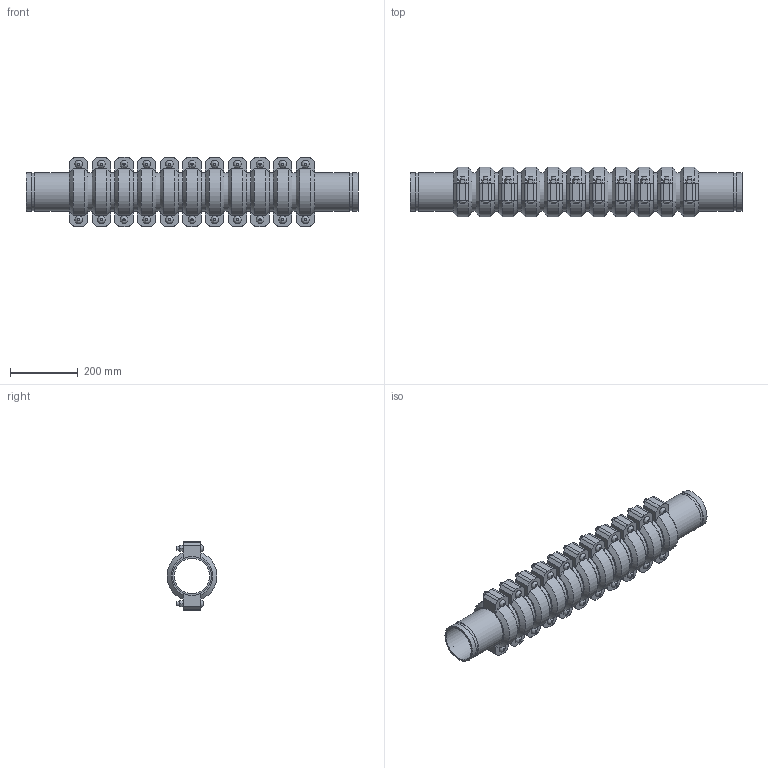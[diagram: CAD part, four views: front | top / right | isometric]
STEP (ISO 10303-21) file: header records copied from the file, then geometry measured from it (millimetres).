
FILE_DESCRIPTION(/* description */ ('VIC SS EXPANSION JOINT 11 COUPLINGS EXPANDED STYLE 155P (OGS) (POTABLE WATER) ','CAx-IF Rec.Pracs.---Representation and Presentation of Product Manufacturing Information (PMI)---4.0---2014-10-13'),/* implementation_level */ '2;1');
FILE_NAME(/* name */ 'C:\Users\kkamble\AppData\Roaming\Autodesk\ApplicationPlugins\Victaulic.Temp\A494\Victaulic_SS_Expansion Joint_Expanded_11 Couplings_Style 155P (OGS)-Potable Water_11 Coup_Expd_4 (100).stp',/* time_stamp */ '2021-07-16T16:46:20+05:00',/* author */ ('kkamble'),/* organization */ ('Victaulic'),/* preprocessor_version */ 'ST-DEVELOPER v17.2',/* originating_system */ 'Autodesk Inventor 2019',/* authorisation */ '');
FILE_SCHEMA (('AP242_MANAGED_MODEL_BASED_3D_ENGINEERING_MIM_LF { 1 0 10303 442 1 1 4 }'));
Length unit declared in the file: inch
Products named in the file (4): 155P-04.0; Nipple-04.0; Nipple-04.0_1; 075-04.0
Assembly tree (23 placements, depth 2):
  155P-04.0
    Nipple-04.0  x2
    Nipple-04.0_1  x10
    075-04.0  x11
Bounding box: 978.41 x 147.32 x 203.96 mm (x, y, z)
Volume: 6812851.8 mm3; surface area: 1578843.5 mm2
Topology: 23 solids, 45 shells, 771 faces, 1823 edges, 1278 vertices
Faces by surface type: plane 468, cylinder 237, cone 44, bspline 22
Full cylindrical faces by diameter (mm): 12.7 x44, 14.605 x22, 103.988 x12, 107.95 x11, 110.084 x24, 114.3 x58
Entity records: 2888 total; most frequent: CARTESIAN_POINT 507, DIRECTION 489, ORIENTED_EDGE 386, AXIS2_PLACEMENT_3D 198, EDGE_CURVE 193, VERTEX_POINT 138, EDGE_LOOP 107, LINE 93
